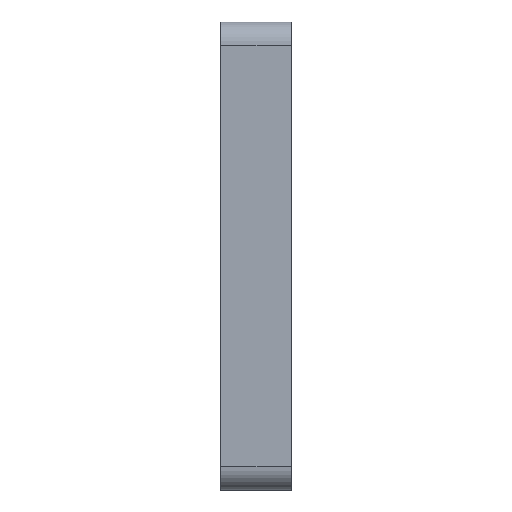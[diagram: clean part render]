
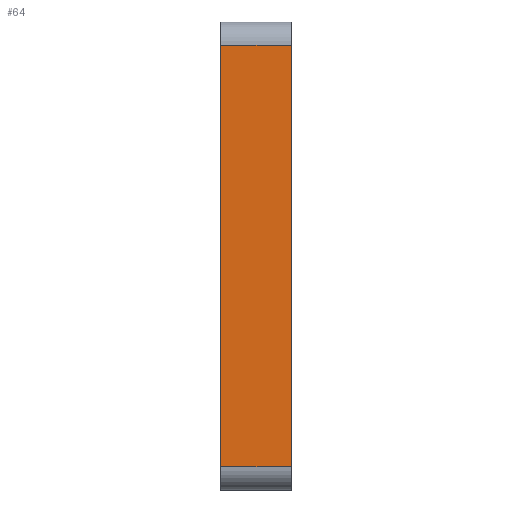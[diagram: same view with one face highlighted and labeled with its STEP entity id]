
A CAD part, left-side view. The second image highlights one B-rep face of the part: STEP entity #64.
In plain terms, the highlighted planar face has unit normal (-1, 0, 0).
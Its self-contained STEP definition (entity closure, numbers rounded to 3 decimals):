
#64 = ADVANCED_FACE( '', ( #159 ), #160, .T. );
#159 = FACE_OUTER_BOUND( '', #328, .T. );
#160 = PLANE( '', #329 );
#328 = EDGE_LOOP( '', ( #493, #494, #495, #496 ) );
#329 = AXIS2_PLACEMENT_3D( '', #497, #498, #499 );
#493 = ORIENTED_EDGE( '', *, *, #786, .T. );
#494 = ORIENTED_EDGE( '', *, *, #787, .T. );
#495 = ORIENTED_EDGE( '', *, *, #788, .F. );
#496 = ORIENTED_EDGE( '', *, *, #789, .T. );
#497 = CARTESIAN_POINT( '', ( -41.275, 9.525, 31.75 ) );
#498 = DIRECTION( '', ( -1., 0., 0. ) );
#499 = DIRECTION( '', ( 0., 0., 1. ) );
#786 = EDGE_CURVE( '', #898, #899, #900, .T. );
#787 = EDGE_CURVE( '', #899, #901, #902, .T. );
#788 = EDGE_CURVE( '', #903, #901, #904, .T. );
#789 = EDGE_CURVE( '', #903, #898, #905, .F. );
#898 = VERTEX_POINT( '', #1068 );
#899 = VERTEX_POINT( '', #1069 );
#900 = LINE( '', #1070, #1071 );
#901 = VERTEX_POINT( '', #1072 );
#902 = LINE( '', #1073, #1074 );
#903 = VERTEX_POINT( '', #1075 );
#904 = LINE( '', #1076, #1077 );
#905 = LINE( '', #1078, #1079 );
#1068 = CARTESIAN_POINT( '', ( -41.275, 9.525, 28.575 ) );
#1069 = CARTESIAN_POINT( '', ( -41.275, 9.525, -28.575 ) );
#1070 = CARTESIAN_POINT( '', ( -41.275, 9.525, 31.75 ) );
#1071 = VECTOR( '', #1264, 1000. );
#1072 = CARTESIAN_POINT( '', ( -41.275, 0., -28.575 ) );
#1073 = CARTESIAN_POINT( '', ( -41.275, 9.525, -28.575 ) );
#1074 = VECTOR( '', #1265, 1000. );
#1075 = CARTESIAN_POINT( '', ( -41.275, 0., 28.575 ) );
#1076 = CARTESIAN_POINT( '', ( -41.275, 0., 31.75 ) );
#1077 = VECTOR( '', #1266, 1000. );
#1078 = CARTESIAN_POINT( '', ( -41.275, 9.525, 28.575 ) );
#1079 = VECTOR( '', #1267, 1000. );
#1264 = DIRECTION( '', ( 0., 0., -1. ) );
#1265 = DIRECTION( '', ( 0., -1., 0. ) );
#1266 = DIRECTION( '', ( 0., 0., -1. ) );
#1267 = DIRECTION( '', ( 0., -1., 0. ) );
